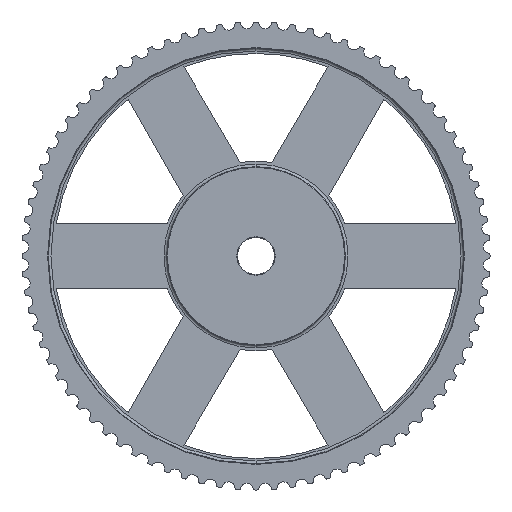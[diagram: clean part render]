
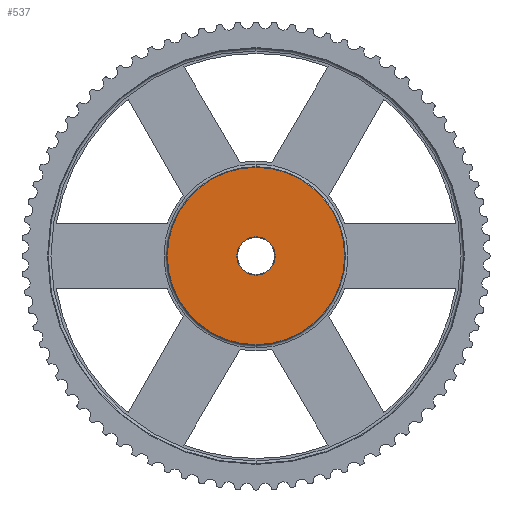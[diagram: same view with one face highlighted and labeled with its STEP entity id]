
A CAD part, left-side view. The second image highlights one B-rep face of the part: STEP entity #537.
In plain terms, the highlighted planar face has unit normal (-1, 0, 0).
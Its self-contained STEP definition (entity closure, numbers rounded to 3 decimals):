
#537=ADVANCED_FACE('',(#1480,#1481),#1482,.T.);
#1480=FACE_BOUND('',#2426,.T.);
#1481=FACE_OUTER_BOUND('',#2427,.T.);
#1482=PLANE('',#2428);
#2426=EDGE_LOOP('',(#6534,#6535));
#2427=EDGE_LOOP('',(#6536,#6537));
#2428=AXIS2_PLACEMENT_3D('',#6538,#6539,#6540);
#6534=ORIENTED_EDGE('',*,*,#6619,.T.);
#6535=ORIENTED_EDGE('',*,*,#6625,.T.);
#6536=ORIENTED_EDGE('',*,*,#7907,.T.);
#6537=ORIENTED_EDGE('',*,*,#6558,.T.);
#6538=CARTESIAN_POINT('',(0.0,0.0,0.0));
#6539=DIRECTION('',(-1.0,0.0,0.0));
#6540=DIRECTION('',(0.0,0.0,1.0));
#6558=EDGE_CURVE('',#7930,#7927,#7931,.T.);
#6619=EDGE_CURVE('',#8039,#8041,#8043,.T.);
#6625=EDGE_CURVE('',#8041,#8039,#8051,.T.);
#7907=EDGE_CURVE('',#7927,#7930,#10173,.T.);
#7927=VERTEX_POINT('',#10197);
#7930=VERTEX_POINT('',#10201);
#7931=CIRCLE('',#10202,67.0);
#8039=VERTEX_POINT('',#10331);
#8041=VERTEX_POINT('',#10334);
#8043=CIRCLE('',#10337,14.5);
#8051=CIRCLE('',#10347,14.5);
#10173=CIRCLE('',#12913,67.0);
#10197=CARTESIAN_POINT('',(0.0,67.0,0.0));
#10201=CARTESIAN_POINT('',(0.0,-67.0,0.));
#10202=AXIS2_PLACEMENT_3D('',#12936,#12937,#12938);
#10331=CARTESIAN_POINT('',(0.0,14.5,0.0));
#10334=CARTESIAN_POINT('',(0.0,-14.5,0.));
#10337=AXIS2_PLACEMENT_3D('',#13073,#13074,#13075);
#10347=AXIS2_PLACEMENT_3D('',#13087,#13088,#13089);
#12913=AXIS2_PLACEMENT_3D('',#16045,#16046,#16047);
#12936=CARTESIAN_POINT('',(0.0,0.0,0.));
#12937=DIRECTION('',(-1.0,0.0,0.0));
#12938=DIRECTION('',(0.0,1.0,0.0));
#13073=CARTESIAN_POINT('',(0.0,0.0,0.0));
#13074=DIRECTION('',(1.0,0.0,0.0));
#13075=DIRECTION('',(0.0,1.0,0.0));
#13087=CARTESIAN_POINT('',(0.0,0.0,0.0));
#13088=DIRECTION('',(1.0,0.0,0.0));
#13089=DIRECTION('',(0.0,1.0,0.0));
#16045=CARTESIAN_POINT('',(0.0,0.0,0.));
#16046=DIRECTION('',(-1.0,0.0,0.0));
#16047=DIRECTION('',(0.0,1.0,0.0));
